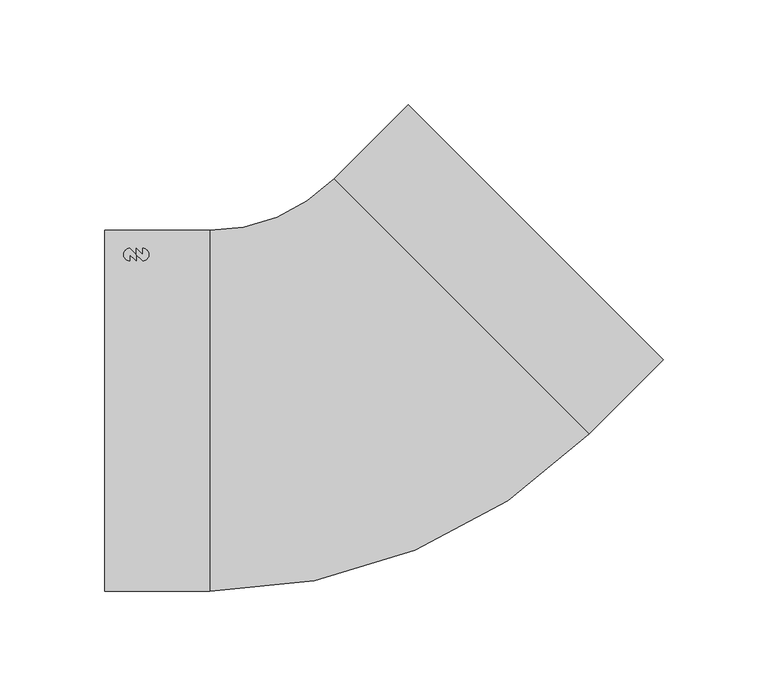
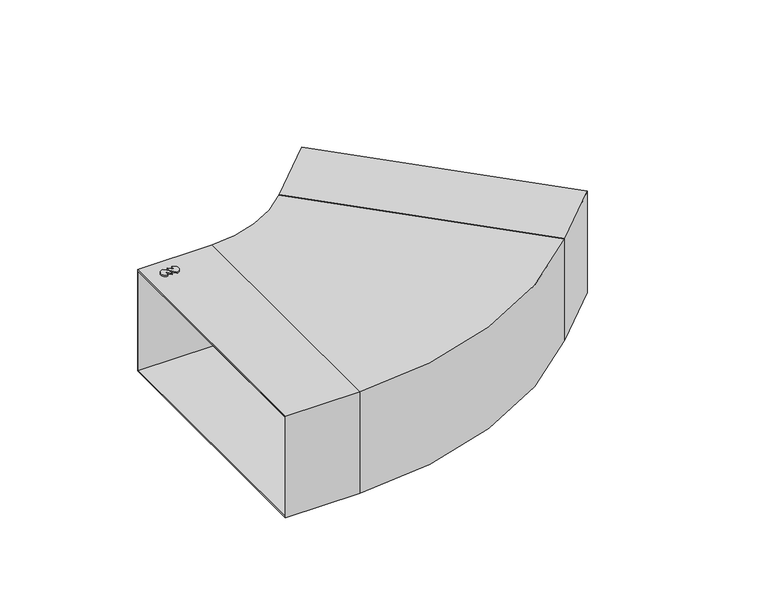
"""IFC4 building model written with IfcOpenShell, lengths in millimetres: duct fitting geometry, NLRS_57_DUF_UN_instortkanaal-stromende-bocht_LT_velu : Bocht radius stromend."""

import ifcopenshell
import ifcopenshell.guid

model = None  # the IFC model being written
_history = None  # IfcOwnerHistory: only IFC2X3 demands one
_inside = {}  # id of a spatial element -> (the spatial element, [elements in it])
_under = {}  # id of a project, library or spatial element -> (it, [spatial elements below it])
_declared = {}  # id of a project -> (the project, [libraries it declares])
_typed = {}  # id of a type object -> (the type object, [elements of that type])
_made_of = {}  # id of a material, layer set ... -> (it, [elements and type objects made of it])


def new_model(schema):
    """Start an empty IFC model of exactly this schema.

    Asked for "IFC4X3", IfcOpenShell would pick the latest addendum, in which some entities
    have other attributes; the version numbers below select the first issue.
    IFC2X3 requires an IfcOwnerHistory on every rooted entity: one is made here for all.
    """
    global model, _history
    if schema == "IFC4X3":
        model = ifcopenshell.file(schema_version=(4, 3, 0, 0))
    else:
        model = ifcopenshell.file(schema=schema)
    _inside.clear()
    _under.clear()
    _declared.clear()
    _typed.clear()
    _made_of.clear()
    _history = None
    if model.schema == "IFC2X3":
        org = make("IfcOrganization", Name="unknown")
        user = make(
            "IfcPersonAndOrganization",
            ThePerson=make("IfcPerson", FamilyName="unknown"),
            TheOrganization=org,
        )
        app = make(
            "IfcApplication",
            ApplicationDeveloper=org,
            Version="unknown",
            ApplicationFullName="unknown",
            ApplicationIdentifier="unknown",
        )
        _history = make(
            "IfcOwnerHistory",
            OwningUser=user,
            OwningApplication=app,
            ChangeAction="ADDED",
            CreationDate=0,
        )
    return model


def make(cls, **values):
    """One entity of the class cls with the attributes given. An attribute that is None is left unset."""
    return model.create_entity(
        cls, **{name: value for name, value in values.items() if value is not None}
    )


def rooted(cls, **values):
    """An entity with a GlobalId (a new one), such as an element, a storey or a relation."""
    return make(cls, GlobalId=ifcopenshell.guid.new(), OwnerHistory=_history, **values)


def si_unit(unit_type, name, prefix=None):
    """IfcSIUnit, for example si_unit("LENGTHUNIT", "METRE", prefix="MILLI")."""
    return make("IfcSIUnit", UnitType=unit_type, Prefix=prefix, Name=name)


def assignment(units):
    """IfcUnitAssignment: the units of a project."""
    return None if units is None else make("IfcUnitAssignment", Units=units)


def point(xyz):
    """IfcCartesianPoint."""
    return None if xyz is None else make("IfcCartesianPoint", Coordinates=xyz)


def direction(xyz):
    """IfcDirection."""
    return None if xyz is None else make("IfcDirection", DirectionRatios=xyz)


def frame(location, z_axis=None, x_axis=None):
    """IfcAxis2Placement3D, a coordinate frame: its origin and axes. An axis left out is left unset."""
    return make(
        "IfcAxis2Placement3D",
        Location=point(location),
        Axis=direction(z_axis),
        RefDirection=direction(x_axis),
    )


def frame_2d(location, x_axis=None):
    """IfcAxis2Placement2D, a coordinate frame in the plane: its origin and x axis."""
    return make(
        "IfcAxis2Placement2D", Location=point(location), RefDirection=direction(x_axis)
    )


def origin():
    """The frame at (0, 0, 0) with its axes left unset."""
    return frame((0.0, 0.0, 0.0))


def place(relative_to, where):
    """IfcLocalPlacement: puts the frame where relative to a parent placement (None: the world)."""
    return make(
        "IfcLocalPlacement", PlacementRelTo=relative_to, RelativePlacement=where
    )


def context(
    kind, dimensions, precision=None, world=None, true_north=None, identifier=None
):
    """IfcGeometricRepresentationContext, for example the 3D "Model" context."""
    return make(
        "IfcGeometricRepresentationContext",
        ContextIdentifier=identifier,
        ContextType=kind,
        CoordinateSpaceDimension=dimensions,
        Precision=precision,
        WorldCoordinateSystem=world,
        TrueNorth=true_north,
    )


def project(units=None, contexts=None):
    """IfcProject with its units and contexts."""
    return rooted(
        "IfcProject",
        Name="project",
        RepresentationContexts=contexts,
        UnitsInContext=assignment(units),
    )


def spatial(cls, under=None, at=None, **own):
    """A site, building, storey or space (cls), placed at a placement, below another one or the project."""
    s = rooted(cls, ObjectPlacement=at, **own)
    if under is not None:
        _under.setdefault(under.id(), (under, []))[1].append(s)
    return s


def polyline(points):
    """IfcPolyline through the points."""
    return make("IfcPolyline", Points=[point(p) for p in points])


def circle_curve(where, radius):
    """IfcCircle in the frame where."""
    return make("IfcCircle", Position=where, Radius=radius)


def trimmed(basis, trim1, trim2, sense, master):
    """IfcTrimmedCurve: the piece of a basis curve between two trims."""
    return make(
        "IfcTrimmedCurve",
        BasisCurve=basis,
        Trim1=trim1,
        Trim2=trim2,
        SenseAgreement=sense,
        MasterRepresentation=master,
    )


def segment(curve, same_sense, transition):
    """IfcCompositeCurveSegment."""
    return make(
        "IfcCompositeCurveSegment",
        Transition=transition,
        SameSense=same_sense,
        ParentCurve=curve,
    )


def composite_curve(segments, self_intersect=None):
    """IfcCompositeCurve: segments joined end to end."""
    return make("IfcCompositeCurve", Segments=segments, SelfIntersect=self_intersect)


def outline(outer, holes=None, kind="AREA"):
    """IfcArbitraryClosedProfileDef: a profile drawn as a closed curve; with holes, ...WithVoids."""
    if holes is None:
        return make("IfcArbitraryClosedProfileDef", ProfileType=kind, OuterCurve=outer)
    return make(
        "IfcArbitraryProfileDefWithVoids",
        ProfileType=kind,
        OuterCurve=outer,
        InnerCurves=holes,
    )


def extrude(swept, where, along, depth):
    """IfcExtrudedAreaSolid: the profile swept, set in the frame where, extruded along a direction by depth."""
    return make(
        "IfcExtrudedAreaSolid",
        SweptArea=swept,
        Position=where,
        ExtrudedDirection=direction(along),
        Depth=depth,
    )


def shape(context_of_items, identifier, shape_type, items):
    """IfcShapeRepresentation: the items that make up one representation, for example the "Body"."""
    return make(
        "IfcShapeRepresentation",
        ContextOfItems=context_of_items,
        RepresentationIdentifier=identifier,
        RepresentationType=shape_type,
        Items=items,
    )


def source(mapping_origin, context_of_items, identifier, shape_type, items):
    """IfcRepresentationMap: a shape defined once, which mapped items show again and again."""
    return make(
        "IfcRepresentationMap",
        MappingOrigin=mapping_origin,
        MappedRepresentation=shape(context_of_items, identifier, shape_type, items),
    )


def transform(
    local_origin,
    x_axis=None,
    y_axis=None,
    z_axis=None,
    scale=None,
    scale2=None,
    scale3=None,
    uniform=True,
):
    """IfcCartesianTransformationOperator3D, or its non-uniform kind. x_axis, y_axis, z_axis: its Axis1, 2, 3."""
    if uniform:
        return make(
            "IfcCartesianTransformationOperator3D",
            Axis1=direction(x_axis),
            Axis2=direction(y_axis),
            LocalOrigin=point(local_origin),
            Scale=scale,
            Axis3=direction(z_axis),
        )
    return make(
        "IfcCartesianTransformationOperator3DnonUniform",
        Axis1=direction(x_axis),
        Axis2=direction(y_axis),
        LocalOrigin=point(local_origin),
        Scale=scale,
        Axis3=direction(z_axis),
        Scale2=scale2,
        Scale3=scale3,
    )


def mapped(mapping_source, mapping_target):
    """IfcMappedItem: shows the shape of a source again, moved by a transform."""
    return make(
        "IfcMappedItem", MappingSource=mapping_source, MappingTarget=mapping_target
    )


def made_of(thing, what):
    """Note that an element or type object is made of a material, layer set ...; save() writes the relation."""
    if what is not None:
        _made_of.setdefault(what.id(), (what, []))[1].append(thing)
    return thing


def element(
    cls,
    number,
    at=None,
    inside=None,
    cuts=None,
    type_object=None,
    material=None,
    context=None,
    identifier="Body",
    shape_type=None,
    held_by="IfcProductDefinitionShape",
    body=None,
    shapes=None,
    **own,
):
    """One element of the class cls, such as IfcWall. Its Tag is "e" and its number.

    at: its placement. inside: the storey or other place that contains it. cuts: it is an
    opening in that element (IfcRelVoidsElement). A single representation is given by context,
    identifier, shape_type and body (its items); several are given by shapes. held_by: the class
    of the entity that holds the representations. save() writes the other relations.
    """
    e = rooted(cls, Tag="e%d" % number, ObjectPlacement=at, **own)
    if body is not None:
        shapes = [shape(context, identifier, shape_type, body)]
    if shapes is not None:
        e.Representation = make(held_by, Representations=shapes)
    if inside is not None:
        _inside.setdefault(inside.id(), (inside, []))[1].append(e)
    if cuts is not None:
        rooted(
            "IfcRelVoidsElement", RelatingBuildingElement=cuts, RelatedOpeningElement=e
        )
    if type_object is not None:
        _typed.setdefault(type_object.id(), (type_object, []))[1].append(e)
    return made_of(e, material)


def aggregate(whole, parts):
    """IfcRelAggregates: a whole, such as a stair, and the parts it consists of."""
    return rooted("IfcRelAggregates", RelatingObject=whole, RelatedObjects=parts)


def save(model, path):
    """Write the relations noted so far, then the file.

    IfcRelAggregates (storeys below a building ...), IfcRelContainedInSpatialStructure (elements
    in a storey), IfcRelDefinesByType, IfcRelAssociatesMaterial and IfcRelDeclares: one each for
    every whole, place, type object, material and project.
    """
    for whole, parts in _under.values():
        aggregate(whole, parts)
    for where, things in _inside.values():
        rooted(
            "IfcRelContainedInSpatialStructure",
            RelatedElements=things,
            RelatingStructure=where,
        )
    for kind, things in _typed.values():
        rooted("IfcRelDefinesByType", RelatedObjects=things, RelatingType=kind)
    for what, things in _made_of.values():
        rooted("IfcRelAssociatesMaterial", RelatedObjects=things, RelatingMaterial=what)
    for by, libraries in _declared.values():
        rooted("IfcRelDeclares", RelatingContext=by, RelatedDefinitions=libraries)
    model.write(path)


def duct_fitting_444cdd6c(model_context):
    return source(origin(), model_context, "Body", "SweptSolid", [
        extrude(outline(composite_curve([segment(trimmed(circle_curve(frame_2d((-32.0, 74.5)), 3.0), [point((-32.0, 77.5))], [point((-32.0, 71.5))], False, "CARTESIAN"), True, "CONTINUOUS"), segment(polyline([(-32.0, 71.5), (-35.0, 74.5), (-35.0, 77.5), (-32.0, 74.5), (-32.0, 77.5)]), True, "CONTINUOUS")], self_intersect=False)), frame((0.0, 0.0, 36.0), z_axis=(0.0, 0.0, 1.0), x_axis=(1.0, 0.0, 0.0)), (0.0, 0.0, 1.0), 1.0),
        extrude(outline(composite_curve([segment(trimmed(circle_curve(frame_2d((-38.0, 74.5)), 3.0), [point((-38.0, 71.5))], [point((-38.0, 77.5))], False, "CARTESIAN"), True, "CONTINUOUS"), segment(polyline([(-38.0, 77.5), (-35.0, 74.5), (-35.0, 71.5), (-38.0, 74.5), (-38.0, 71.5)]), True, "CONTINUOUS")], self_intersect=False)), frame((0.0, 0.0, 36.0), z_axis=(0.0, 0.0, 1.0), x_axis=(1.0, 0.0, 0.0)), (0.0, 0.0, 1.0), 1.0),
        extrude(outline(polyline([(86.0, -36.0), (-86.0, -36.0), (-86.0, 36.0), (86.0, 36.0), (86.0, -36.0)]), holes=[polyline([(85.0, 35.0), (-85.0, 35.0), (-85.0, -35.0), (85.0, -35.0), (85.0, 35.0)])]), frame((-50.0, 0.0, 0.0), z_axis=(1.0, 0.0, 0.0), x_axis=(0.0, 1.0, 0.0)), (0.0, 0.0, 1.0), 50.0),
        extrude(outline(polyline([(171.0, -1.0), (-1.0, -1.0), (-1.0, 71.0), (171.0, 71.0), (171.0, -1.0)]), holes=[polyline([(170.0, 70.0), (0.0, 70.0), (0.0, 0.0), (170.0, 0.0), (170.0, 70.0)])]), frame((60.1040764, 109.8959236, 35.0), z_axis=(0.7071067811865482, 0.7071067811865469, 0.0), x_axis=(0.7071067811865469, -0.7071067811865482, 0.0)), (0.0, 0.0, 1.0), 50.0),
        extrude(outline(composite_curve([segment(trimmed(circle_curve(frame_2d((0.0, 170.0)), 256.0), [point((181.019336, -11.019336))], [point((0.0, -86.0))], False, "CARTESIAN"), True, "CONTINUOUS"), segment(polyline([(0.0, -86.0), (0.0, 86.0)]), True, "CONTINUOUS"), segment(trimmed(circle_curve(frame_2d((0.0, 170.0)), 84.0), [point((0.0, 86.0))], [point((59.3969696, 110.6030304))], True, "CARTESIAN"), True, "CONTINUOUS"), segment(polyline([(59.3969696, 110.6030304), (181.019336, -11.019336)]), True, "CONTINUOUS")], self_intersect=False)), frame((0.0, 0.0, -36.0), z_axis=(0.0, 0.0, 1.0), x_axis=(1.0, 0.0, 0.0)), (0.0, 0.0, 1.0), 72.0),
    ])


if __name__ == "__main__":
    model = new_model("IFC4")
    model_context = context("Model", 3, world=origin())
    ifc_project = project(units=[si_unit("LENGTHUNIT", "METRE", prefix="MILLI")], contexts=[model_context])
    site = spatial("IfcSite", under=ifc_project)
    building = spatial("IfcBuilding", under=site)
    placement = place(None, origin())
    duct_fitting_shape = duct_fitting_444cdd6c(model_context)
    element("IfcDuctFitting", 1, ObjectType="NLRS_57_DUF_UN_instortkanaal-stromende-bocht_LT_velu : Bocht radius stromend", at=placement, inside=building, context=model_context, shape_type="MappedRepresentation", body=[
        mapped(duct_fitting_shape, transform((0.0, 0.0, 0.0), x_axis=(1.0, 0.0, 0.0), y_axis=(0.0, 1.0, 0.0), z_axis=(0.0, 0.0, 1.0))),
    ])
    save(model, "model.ifc")
